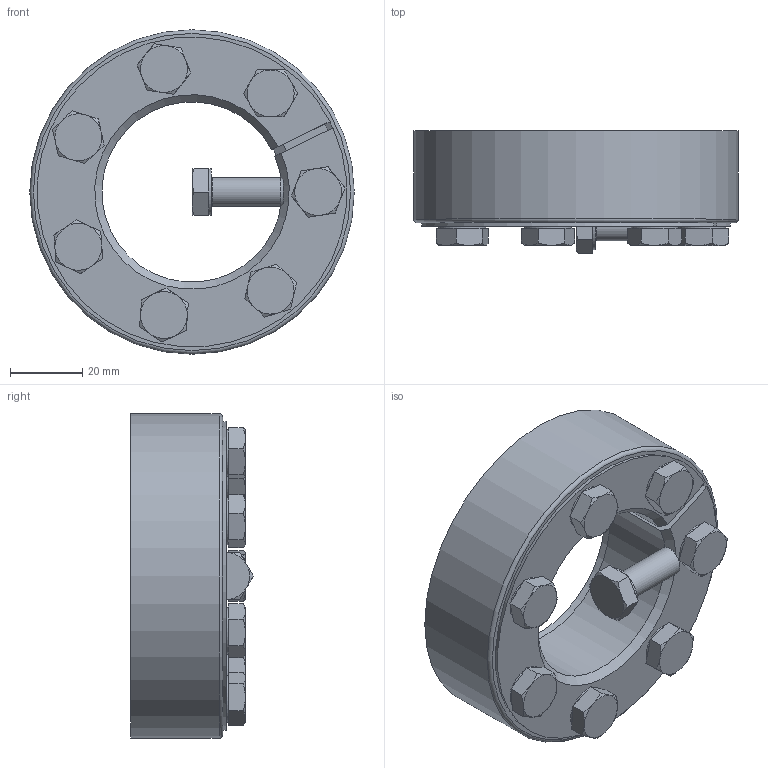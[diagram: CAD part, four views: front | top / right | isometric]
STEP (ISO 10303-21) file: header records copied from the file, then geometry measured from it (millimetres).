
FILE_DESCRIPTION( ( 'Unknown' ), '1' );
FILE_NAME( 'C:/Dokumente und Einstellungen/Sven/Desktop/homepage/cad - homepage/KBS19-1/KBS 19_1 - 50 x 90.stp', 'Unknown', ( 'Unknown' ), ( 'Unknown' ), 'XStep 1.0', 'Unknown', ' ' );
FILE_SCHEMA( ( 'automotive_design' ) );
Length unit declared in the file: millimetre
Products named in the file (3): Assem1; KBS 19_1 - 50 x 90; ISO 4017 - M8 x 20-N
Bounding box: 90 x 34.01 x 90 mm (x, y, z)
Volume: 225350.1 mm3; surface area: 57265.1 mm2
Topology: 10 solids, 10 shells, 244 faces, 546 edges, 330 vertices
Faces by surface type: plane 138, cone 62, cylinder 34, torus 10
Full cylindrical faces by diameter (mm): 8 x22, 13 x8, 90 x2
Entity records: 1586 total; most frequent: CARTESIAN_POINT 275, DIRECTION 232, ORIENTED_EDGE 194, AXIS2_PLACEMENT_3D 97, EDGE_CURVE 97, EDGE_LOOP 77, VERTEX_POINT 68, FACE_OUTER_BOUND 59
